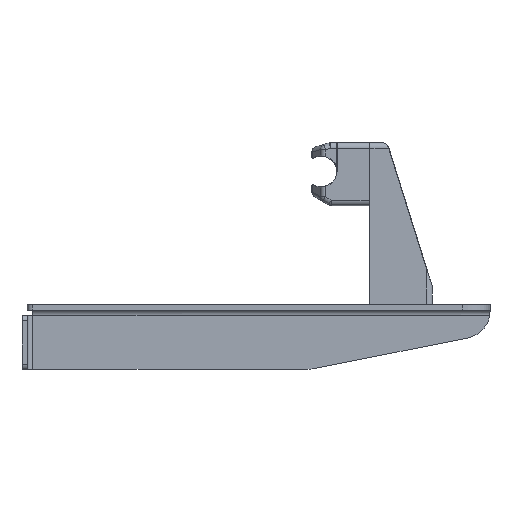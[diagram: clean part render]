
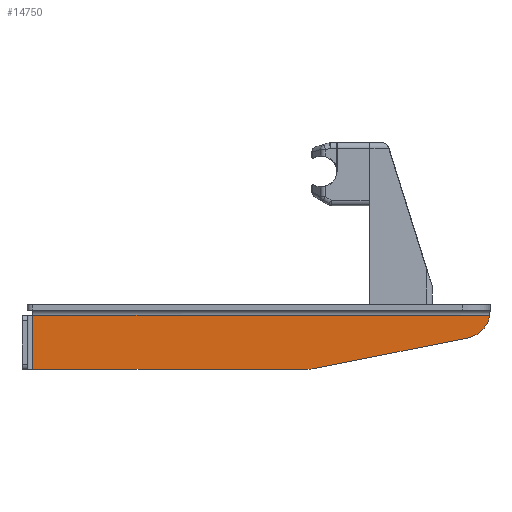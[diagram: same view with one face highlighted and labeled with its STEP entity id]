
A CAD part, front view. The second image highlights one B-rep face of the part: STEP entity #14750.
In plain terms, the highlighted planar face has unit normal (0, -1, 0).
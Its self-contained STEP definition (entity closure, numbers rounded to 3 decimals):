
#920=PLANE('',#15766);
#1432=FACE_OUTER_BOUND('',#2342,.T.);
#2342=EDGE_LOOP('',(#10279,#10280,#10281,#10282,#10283,#10284));
#3344=LINE('',#21570,#4856);
#3345=LINE('',#21574,#4857);
#3346=LINE('',#21576,#4858);
#3347=LINE('',#21577,#4859);
#4856=VECTOR('',#17226,10.);
#4857=VECTOR('',#17229,10.);
#4858=VECTOR('',#17230,10.);
#4859=VECTOR('',#17231,10.);
#6346=CIRCLE('',#15765,15.);
#6347=CIRCLE('',#15767,15.);
#6826=VERTEX_POINT('',#21563);
#6827=VERTEX_POINT('',#21565);
#6828=VERTEX_POINT('',#21569);
#6829=VERTEX_POINT('',#21571);
#6830=VERTEX_POINT('',#21573);
#6831=VERTEX_POINT('',#21575);
#8130=EDGE_CURVE('',#6826,#6827,#6346,.T.);
#8132=EDGE_CURVE('',#6828,#6826,#3344,.T.);
#8133=EDGE_CURVE('',#6829,#6828,#6347,.T.);
#8134=EDGE_CURVE('',#6829,#6830,#3345,.T.);
#8135=EDGE_CURVE('',#6830,#6831,#3346,.T.);
#8136=EDGE_CURVE('',#6831,#6827,#3347,.T.);
#10279=ORIENTED_EDGE('',*,*,#8130,.F.);
#10280=ORIENTED_EDGE('',*,*,#8132,.F.);
#10281=ORIENTED_EDGE('',*,*,#8133,.F.);
#10282=ORIENTED_EDGE('',*,*,#8134,.T.);
#10283=ORIENTED_EDGE('',*,*,#8135,.T.);
#10284=ORIENTED_EDGE('',*,*,#8136,.T.);
#14750=ADVANCED_FACE('',(#1432),#920,.F.);
#15765=AXIS2_PLACEMENT_3D('',#21566,#17221,#17222);
#15766=AXIS2_PLACEMENT_3D('',#21568,#17224,#17225);
#15767=AXIS2_PLACEMENT_3D('',#21572,#17227,#17228);
#17221=DIRECTION('center_axis',(0.,1.,0.));
#17222=DIRECTION('ref_axis',(0.099,0.,-0.995));
#17224=DIRECTION('center_axis',(0.,1.,0.));
#17225=DIRECTION('ref_axis',(1.,0.,0.));
#17226=DIRECTION('',(-0.981,0.,-0.196));
#17227=DIRECTION('center_axis',(0.,1.,0.));
#17228=DIRECTION('ref_axis',(0.196,0.,-0.981));
#17229=DIRECTION('',(-1.,0.,0.));
#17230=DIRECTION('',(0.,0.,-1.));
#17231=DIRECTION('',(1.,0.,0.));
#21563=CARTESIAN_POINT('',(158.456,35.,-32.709));
#21565=CARTESIAN_POINT('',(155.515,35.,-33.));
#21566=CARTESIAN_POINT('Origin',(155.515,35.,-18.));
#21568=CARTESIAN_POINT('Origin',(128.5,35.,-14.607));
#21569=CARTESIAN_POINT('',(244.942,35.,-15.412));
#21570=CARTESIAN_POINT('',(170.067,35.,-30.387));
#21571=CARTESIAN_POINT('',(256.823,35.,-3.));
#21572=CARTESIAN_POINT('Origin',(242.,35.,-0.703));
#21573=CARTESIAN_POINT('',(3.,35.,-3.));
#21574=CARTESIAN_POINT('',(128.5,35.,-3.));
#21575=CARTESIAN_POINT('',(3.,35.,-33.));
#21576=CARTESIAN_POINT('',(3.,35.,-23.804));
#21577=CARTESIAN_POINT('',(0.,35.,-33.));
